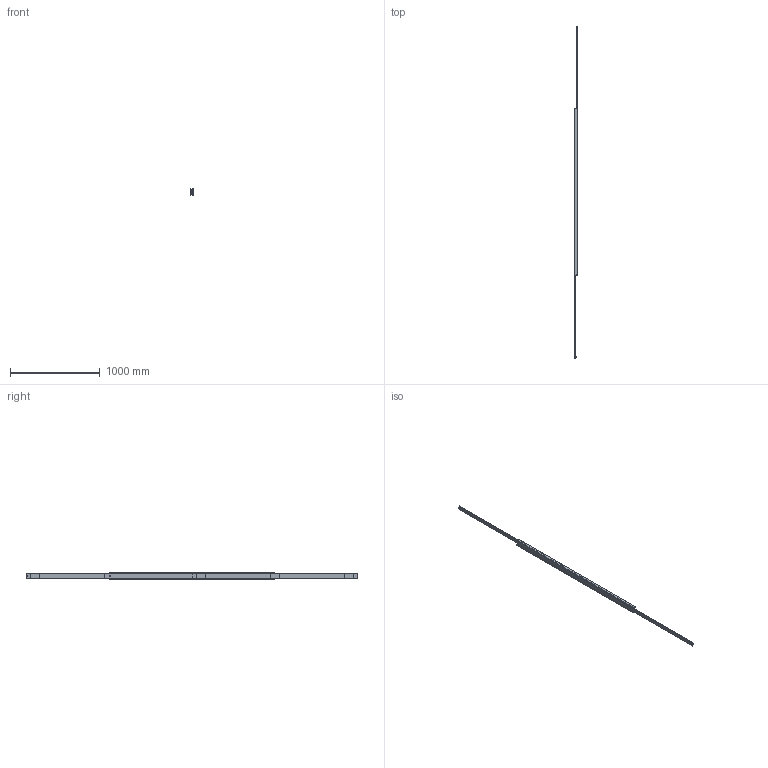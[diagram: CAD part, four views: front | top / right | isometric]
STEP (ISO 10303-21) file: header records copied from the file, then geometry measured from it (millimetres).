
FILE_DESCRIPTION(/* description */ (''),/* implementation_level */ '2;1');
FILE_NAME(/* name */ 'D:\Zeichnungen Schienen Komplett\MX-DTP70\MX-DTP70.185\MX-DTP70.185_ausgefahren.step',/* time_stamp */ '2022-08-31T08:54:35+02:00',/* author */ ('zmile'),/* organization */ (''),/* preprocessor_version */ 'ST-DEVELOPER v16.13',/* originating_system */ 'AutoCAD Mechanical',/* authorisation */ '');
FILE_SCHEMA (('AUTOMOTIVE_DESIGN { 1 0 10303 214 3 1 1 }'));
Products named in the file (1): Product
Bounding box: 32 x 3700 x 70 mm (x, y, z)
Volume: 3290759 mm3; surface area: 1165843.8 mm2
Topology: 127 solids, 127 shells, 458 faces, 1312 edges, 872 vertices
Faces by surface type: cylinder 160, sphere 120, plane 86, bspline 86, torus 6
Full cylindrical faces by diameter (mm): 9 x120, 13 x2
Entity records: 197153 total; most frequent: CARTESIAN_POINT 186527, ORIENTED_EDGE 1884, DIRECTION 1862, EDGE_CURVE 942, EDGE_LOOP 882, VERTEX_POINT 870, AXIS2_PLACEMENT_3D 825, FACE_OUTER_BOUND 458
